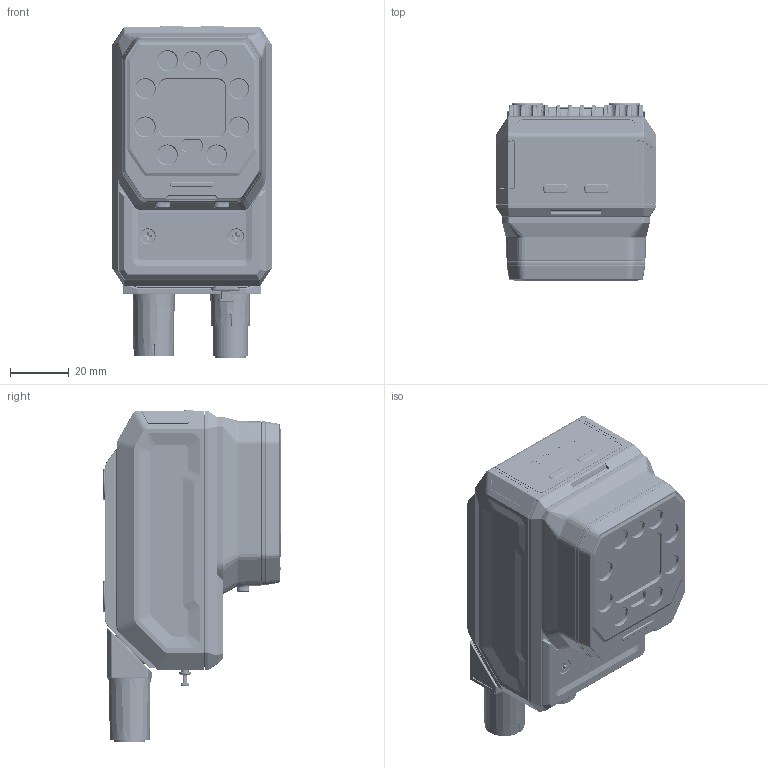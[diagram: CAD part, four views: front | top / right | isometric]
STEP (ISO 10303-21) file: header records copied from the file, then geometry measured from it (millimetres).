
FILE_DESCRIPTION((''),'2;1');
FILE_NAME('00-ID5050XM-ASSY_ASM','2024-11-18T17:59:07',('huguozhe'),(''),'CREO PARAMETRIC BY PTC INC, 2020044','CREO PARAMETRIC BY PTC INC, 2020044','');
FILE_SCHEMA(('AUTOMOTIVE_DESIGN { 1 0 10303 214 1 1 1 1 }'));
Products named in the file (33): DE-13-001803; DE-13-001802_ASM; DE-13-002199; DE-13-002200_ASM; DE-12-004312; DE-12-004313; DE-13-001769; DE-13-001818_ASM; DE-13-001770; DE-13-001771_ASM; DE-20-023137_ASM; L102-M12-ZJ12A01-ALL; CNT12-M12-LT08A02_ALL; SC-KM2X4NL-BNI-SCM435-GB819; DE-20-023136_ASM; DE-13-001795; DE-13-001794_ASM; DE-13-001797; DE-13-001796_ASM; DE-12-004304; SC-T1M2X4NL-B; SC-PM2_5X6-NI-GB823; DE-18-000217; DE-19-009228-02; DE-18-000217-02_ASM; DE-20-023504_ASM; DE-12-004314; SC-KM2_5X6B-JMF; DE-19-010235; DE-19-010237; DE-19-010235_ASM; DE-19-010553; 00-ID5050XM-ASSY_ASM
Assembly tree (44 placements, depth 5):
  00-ID5050XM-ASSY_ASM
    DE-13-001802_ASM
      DE-13-001803
    DE-13-002200_ASM
      DE-13-002199
    DE-12-004312
    DE-12-004313
    DE-20-023136_ASM
      DE-13-001818_ASM
        DE-13-001769
      DE-20-023137_ASM
        DE-13-001771_ASM
          DE-13-001770
      L102-M12-ZJ12A01-ALL
      CNT12-M12-LT08A02_ALL
      SC-KM2X4NL-BNI-SCM435-GB819  x2
    DE-20-023504_ASM
      DE-13-001794_ASM
        DE-13-001795
      DE-13-001796_ASM
        DE-13-001797
      DE-12-004304
      SC-T1M2X4NL-B  x4
      SC-PM2_5X6-NI-GB823  x4
      DE-18-000217-02_ASM
        DE-18-000217
        DE-19-009228-02
    DE-12-004314
    SC-PM2_5X6-NI-GB823  x4
    SC-KM2_5X6B-JMF  x2
    DE-19-010235_ASM
      DE-19-010235
      DE-19-010237
    DE-19-010553
Bounding box: 54 x 60.15 x 112.59 mm (x, y, z)
Volume: 76235.3 mm3; surface area: 88059 mm2
Topology: 33 solids, 136 shells, 6276 faces, 15413 edges, 9343 vertices
Faces by surface type: cylinder 2001, plane 1791, cone 980, torus 761, bspline 688, sphere 50, extrusion 3, revolution 2
Entity records: 259162 total; most frequent: CARTESIAN_POINT 90638, DIRECTION 28150, ORIENTED_EDGE 27668, EDGE_CURVE 13954, AXIS2_PLACEMENT_3D 11238, PRESENTATION_STYLE_ASSIGNMENT 8757, STYLED_ITEM 8707, VERTEX_POINT 8547
